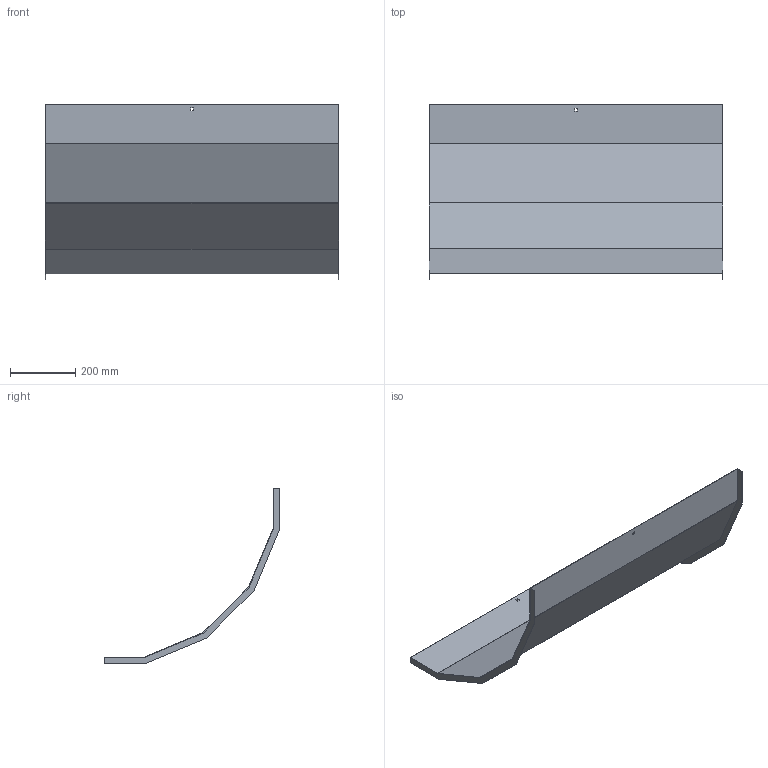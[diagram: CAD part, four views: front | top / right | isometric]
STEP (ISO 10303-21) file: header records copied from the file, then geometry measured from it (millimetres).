
FILE_DESCRIPTION (( 'STEP AP214' ), '1' );
FILE_NAME ('30N5R900_H150.step', '2025-02-21T14:29:56', ( '' ), ( '' ), 'SwSTEP 2.0', 'SolidWorks 2023', '' );
FILE_SCHEMA (( 'AUTOMOTIVE_DESIGN' ));
Length unit declared in the file: millimetre
Products named in the file (1): 30N5R900_H150
Bounding box: 903 x 540.72 x 540.72 mm (x, y, z)
Volume: 1182560.5 mm3; surface area: 1582263.2 mm2
Topology: 1 solids, 1 shells, 34 faces, 96 edges, 64 vertices
Faces by surface type: plane 34
Entity records: 1111 total; most frequent: CARTESIAN_POINT 195, ORIENTED_EDGE 192, DIRECTION 166, EDGE_CURVE 96, LINE 96, VECTOR 96, VERTEX_POINT 64, EDGE_LOOP 38
